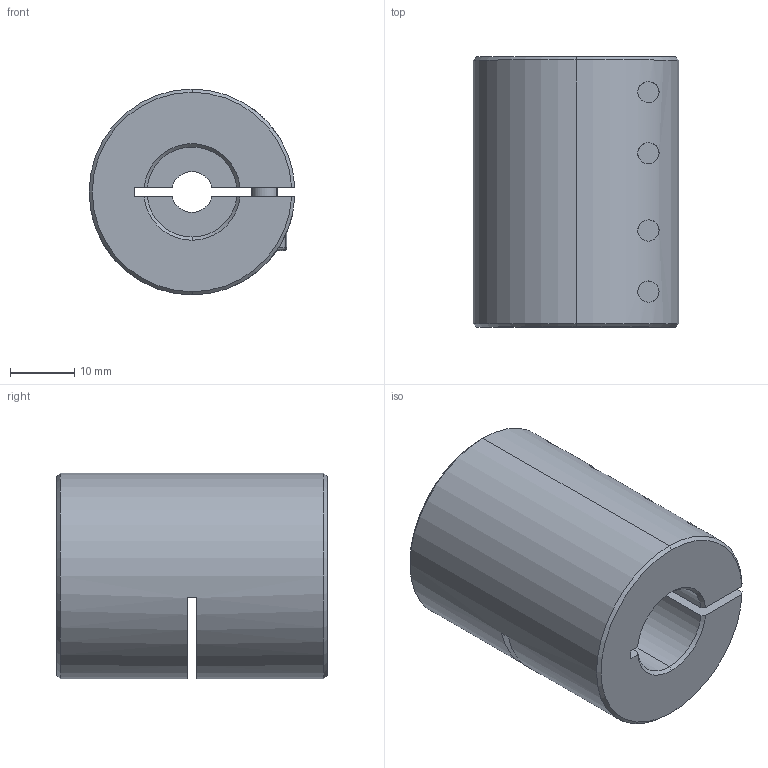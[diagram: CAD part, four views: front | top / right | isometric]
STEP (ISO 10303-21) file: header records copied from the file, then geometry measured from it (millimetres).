
FILE_DESCRIPTION (( 'STEP AP203' ), '1' );
FILE_NAME ('LL-B-D32L42-6.35-14.STEP', '2021-11-05T07:38:40', ( '' ), ( '' ), 'SwSTEP 2.0', 'SolidWorks 2018', '' );
FILE_SCHEMA (( 'CONFIG_CONTROL_DESIGN' ));
Length unit declared in the file: millimetre
Products named in the file (1): LL-B-D32L42-6.35-14
Bounding box: 31.98 x 42 x 32 mm (x, y, z)
Volume: 27391 mm3; surface area: 10336.1 mm2
Topology: 1 solids, 1 shells, 193 faces, 492 edges, 309 vertices
Faces by surface type: plane 88, cylinder 77, cone 20, torus 8
Entity records: 6376 total; most frequent: CARTESIAN_POINT 1559, DIRECTION 1037, ORIENTED_EDGE 968, EDGE_CURVE 484, AXIS2_PLACEMENT_3D 403, VERTEX_POINT 309, VECTOR 231, LINE 231
